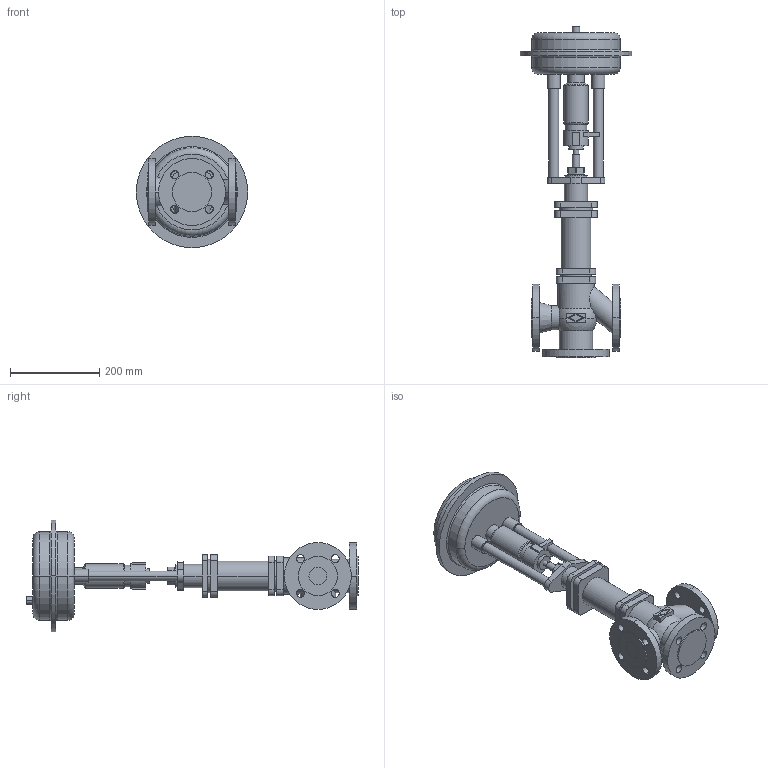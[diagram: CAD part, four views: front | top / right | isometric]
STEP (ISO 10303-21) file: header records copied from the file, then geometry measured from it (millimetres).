
FILE_DESCRIPTION(('OneSpaceDesigner STEP Export'),'2;1');
FILE_NAME('c000000747.stp','2006-09-20T11:30:02',(''),(''),'OneSpace Designer STEP processor for AP214 (Solid Model)','OneSpace Designer 13.20A 18-Aug-2005 (C) CoCreate Software GmbH','');
FILE_SCHEMA(('AUTOMOTIVE_DESIGN { 1 0 10303 214 1 1 1 1 }'));
Length unit declared in the file: millimetre
Products named in the file (2): 1; 2
Bounding box: 250 x 744.5 x 250 mm (x, y, z)
Volume: 6616143.4 mm3; surface area: 504835.6 mm2
Topology: 2 solids, 2 shells, 243 faces, 591 edges, 386 vertices
Faces by surface type: cylinder 118, plane 97, torus 16, sphere 6, cone 6
Entity records: 6855 total; most frequent: CARTESIAN_POINT 1512, ORIENTED_EDGE 1182, DIRECTION 1000, EDGE_CURVE 591, VERTEX_POINT 386, AXIS2_PLACEMENT_3D 362, EDGE_LOOP 301, VECTOR 276
